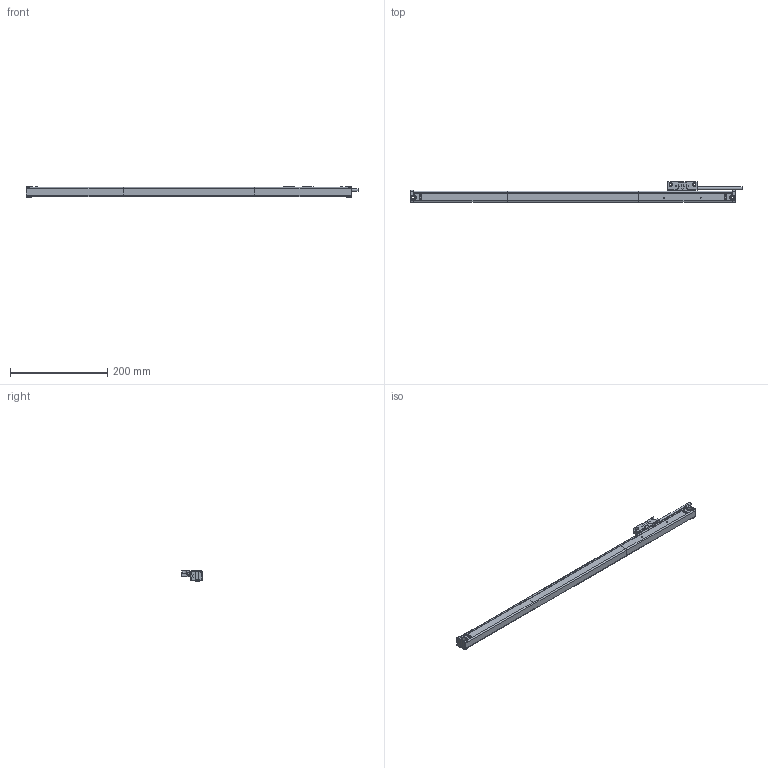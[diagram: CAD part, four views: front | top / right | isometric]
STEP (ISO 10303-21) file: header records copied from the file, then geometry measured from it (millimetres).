
FILE_DESCRIPTION( ( 'STEP AP203' ), '1' );
FILE_NAME( 'N:/Engineering/CAD_Solid/Magnescale/GBER/GB-055ER_SR138-055R.stp', '2013-03-14T10:07:07', ( ' ' ), ( ' ' ), 'XStep 1.0', ' ', ' ' );
FILE_SCHEMA( ( 'CONFIG_CONTROL_DESIGN) ( )' ) );
Length unit declared in the file: metre
Products named in the file (1): 1
Bounding box: 682.5 x 42 x 21 mm (x, y, z)
Surface area: 70821.2 mm2 (no closed solid volume)
Topology: 0 solids, 293 shells, 293 faces, 1592 edges, 1556 vertices
Faces by surface type: plane 183, cylinder 87, torus 12, cone 9, extrusion 1, sphere 1
Full cylindrical faces by diameter (mm): 2.013 x2, 2.113 x2, 3.242 x2, 4 x8, 4.8 x1, 5 x2, 6 x1, 9.8 x2, 10 x2
Entity records: 15419 total; most frequent: CARTESIAN_POINT 3434, DIRECTION 2590, ORIENTED_EDGE 1545, EDGE_CURVE 1545, VERTEX_POINT 1545, VECTOR 1082, LINE 1081, AXIS2_PLACEMENT_3D 754
